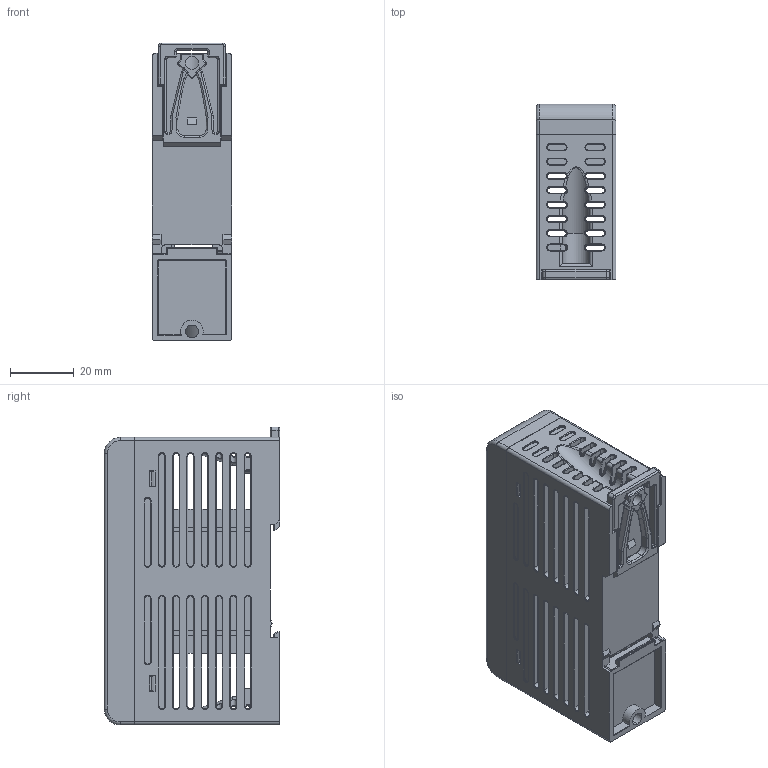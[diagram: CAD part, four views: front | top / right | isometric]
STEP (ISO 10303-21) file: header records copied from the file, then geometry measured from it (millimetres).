
FILE_DESCRIPTION((''),'2;1');
FILE_NAME('B1-CM_ASM','2021-06-09T',('Jacky Chang'),('ME Department of NTUST'),'PRO/ENGINEER BY PARAMETRIC TECHNOLOGY CORPORATION, 2014200','PRO/ENGINEER BY PARAMETRIC TECHNOLOGY CORPORATION, 2014200','');
FILE_SCHEMA(('CONFIG_CONTROL_DESIGN','GEOMETRIC_VALIDATION_PROPERTIES_MIM'));
Products named in the file (5): B1-CM55_UP_COVER; B1-CM_DOWN_COVER; JOIN; B1-CM_DOWN_COVER_ASM; B1-CM_ASM
Assembly tree (4 placements, depth 3):
  B1-CM_ASM
    B1-CM55_UP_COVER
    B1-CM_DOWN_COVER_ASM
      B1-CM_DOWN_COVER
      JOIN
Bounding box: 25 x 54.9 x 93.25 mm (x, y, z)
Volume: 26859 mm3; surface area: 36586.1 mm2
Topology: 3 solids, 3 shells, 1359 faces, 3646 edges, 2236 vertices
Faces by surface type: plane 587, cylinder 493, torus 164, bspline 92, sphere 23
Entity records: 60069 total; most frequent: CARTESIAN_POINT 15052, ORIENTED_EDGE 7274, DIRECTION 6925, PRESENTATION_STYLE_ASSIGNMENT 3641, STYLED_ITEM 3640, CURVE_STYLE 3637, EDGE_CURVE 3637, AXIS2_PLACEMENT_3D 2362
